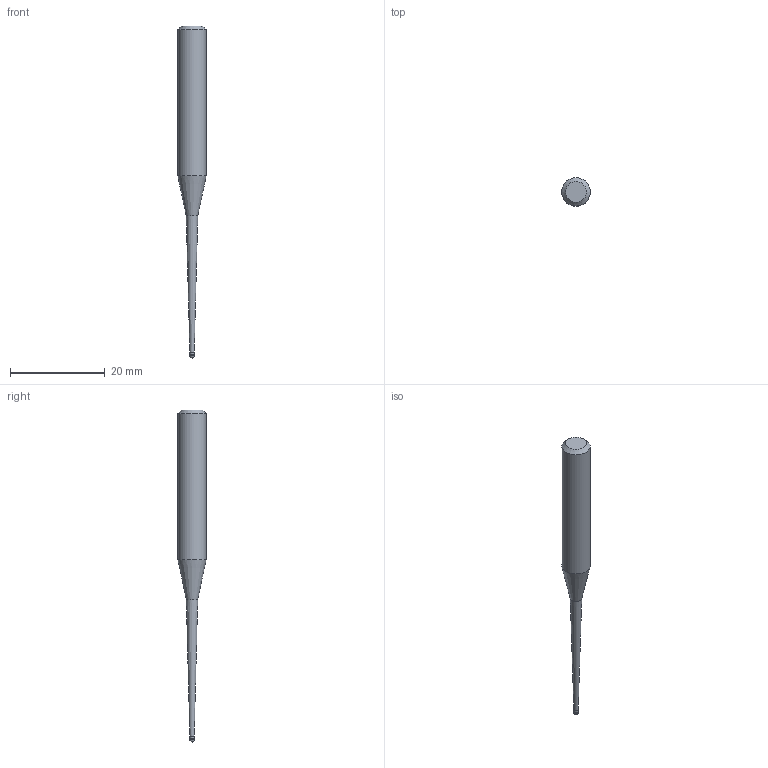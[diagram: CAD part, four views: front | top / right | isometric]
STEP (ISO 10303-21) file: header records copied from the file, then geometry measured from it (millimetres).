
FILE_DESCRIPTION((''),'2;1');
FILE_NAME('C:\Users\nsx150\AppData\Local\Temp\Mastercam 2021\E0ENTZRV18\TEMP.step','2021-09-02T09:56:14',(''),(''),'STEP Write','Mastercam 2021 ... CNC Software, Inc.','');
FILE_SCHEMA(('AUTOMOTIVE_DESIGN'));
Length unit declared in the file: millimetre
Products named in the file (1): None
Bounding box: 6 x 6 x 70 mm (x, y, z)
Volume: 1080.2 mm3; surface area: 883.9 mm2
Topology: 2 solids, 2 shells, 10 faces, 16 edges, 9 vertices
Faces by surface type: plane 3, cylinder 3, cone 3, sphere 1
Full cylindrical faces by diameter (mm): 0.905 x1, 1 x1, 6 x1
Entity records: 232 total; most frequent: DIRECTION 40, CARTESIAN_POINT 28, AXIS2_PLACEMENT_3D 20, ORIENTED_EDGE 16, EDGE_LOOP 16, STYLED_ITEM 13, ADVANCED_FACE 10, FACE_BOUND 9
